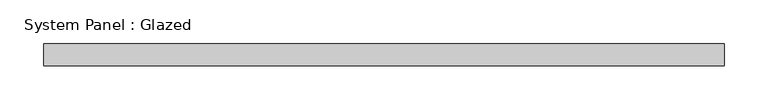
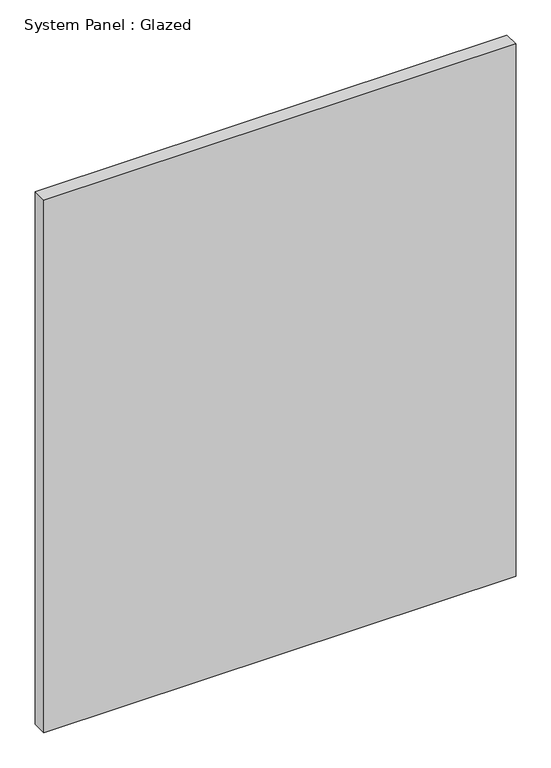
"""IFC4 building model written with IfcOpenShell, lengths in millimetres: plate geometry, System Panel : Glazed."""

from ifc_helpers import new_model, si_unit, origin, origin_with_axes, place, context, project, spatial, polyline, outline, extrude, source, transform, mapped, element, save


def system_panel_glazed_165b51f8(model_context):
    return source(origin(), model_context, "Body", "SweptSolid", [
        extrude(outline(polyline([(387.9288593, 24.5), (-387.9288593, 24.5), (-387.9288593, 49.5), (387.9288593, 49.5), (387.9288593, 24.5)])), origin_with_axes(), (0.0, 0.0, 1.0), 925.0),
    ])


if __name__ == "__main__":
    model = new_model("IFC4")
    model_context = context("Model", 3, world=origin())
    ifc_project = project(units=[si_unit("LENGTHUNIT", "METRE", prefix="MILLI")], contexts=[model_context])
    site = spatial("IfcSite", under=ifc_project)
    building = spatial("IfcBuilding", under=site)
    placement = place(None, origin())
    system_panel_glazed_shape = system_panel_glazed_165b51f8(model_context)
    element("IfcPlate", 1, ObjectType="System Panel : Glazed", at=placement, inside=building, context=model_context, shape_type="MappedRepresentation", body=[
        mapped(system_panel_glazed_shape, transform((0.0, 0.0, 0.0), x_axis=(1.0, 0.0, 0.0), y_axis=(0.0, 1.0, 0.0), z_axis=(0.0, 0.0, 1.0))),
    ])
    save(model, "model.ifc")
